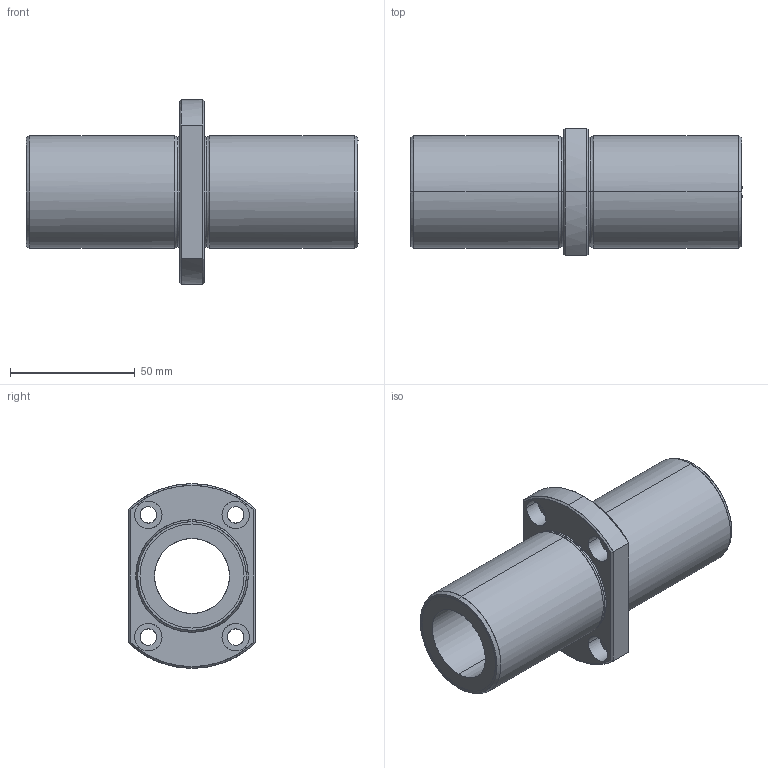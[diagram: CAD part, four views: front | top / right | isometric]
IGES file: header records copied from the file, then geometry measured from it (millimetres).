
Global section: file name: No Iges File Name specified; native system: AutoDesk Inventor R10; preprocessor: AutoDesk Inventor Iges Exporter R10; author: No Author specified; organization: No Organization specified; date: 20101216.154320; units: millimetre
Bounding box: 133 x 51 x 74 mm (x, y, z)
Surface area: 38318.5 mm2 (no closed solid volume)
Topology: 0 solids, 0 shells, 66 faces, 416 edges, 416 vertices
Faces by surface type: bspline 66
